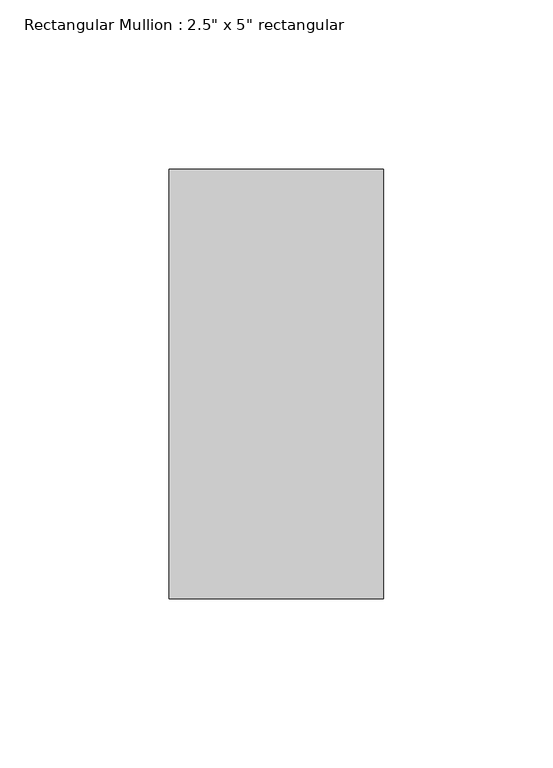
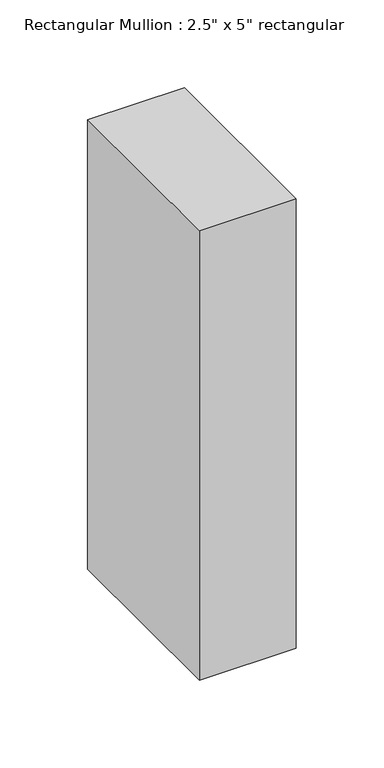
"""IFC4 building model written with IfcOpenShell, lengths in millimetres: member geometry."""

from ifc_helpers import new_model, si_unit, frame, origin, place, context, project, spatial, polyline, outline, extrude, source, transform, mapped, element, save


def member_5e33a872(model_context):
    return source(origin(), model_context, "Body", "SweptSolid", [
        extrude(outline(polyline([(0.0, 63.5), (0.0, -63.5), (-63.5, -63.5), (-63.5, 63.5), (0.0, 63.5)])), frame((0.0, 0.0, -311.94375), z_axis=(0.0, 0.0, 1.0), x_axis=(1.0, 0.0, 0.0)), (0.0, 0.0, 1.0), 311.94375),
    ])


if __name__ == "__main__":
    model = new_model("IFC4")
    model_context = context("Model", 3, world=origin())
    ifc_project = project(units=[si_unit("LENGTHUNIT", "METRE", prefix="MILLI")], contexts=[model_context])
    site = spatial("IfcSite", under=ifc_project)
    building = spatial("IfcBuilding", under=site)
    placement = place(None, origin())
    member_shape = member_5e33a872(model_context)
    element("IfcMember", 1, ObjectType="Rectangular Mullion : 2.5\" x 5\" rectangular", at=placement, inside=building, context=model_context, shape_type="MappedRepresentation", body=[
        mapped(member_shape, transform((0.0, 0.0, 0.0), x_axis=(1.0, 0.0, 0.0), y_axis=(0.0, 1.0, 0.0), z_axis=(0.0, 0.0, 1.0))),
    ])
    save(model, "model.ifc")
